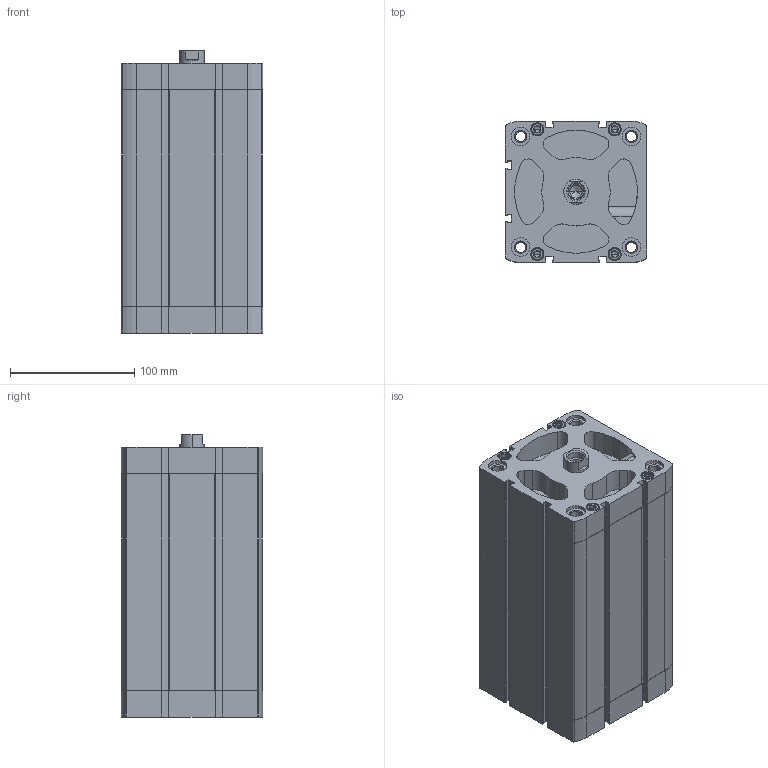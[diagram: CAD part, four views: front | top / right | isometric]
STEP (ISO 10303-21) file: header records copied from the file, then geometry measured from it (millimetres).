
FILE_DESCRIPTION (( 'STEP AP203' ), '1' );
FILE_NAME ('CCN100-150F.STEP', '2020-06-05T18:15:06', ( '' ), ( '' ), 'SwSTEP 2.0', 'SolidWorks 2019', '' );
FILE_SCHEMA (( 'CONFIG_CONTROL_DESIGN' ));
Length unit declared in the file: millimetre
Products named in the file (1): CCN100-150F
Bounding box: 113.5 x 113.5 x 226.8 mm (x, y, z)
Volume: 1392667 mm3; surface area: 291042.3 mm2
Topology: 2 solids, 2 shells, 628 faces, 1631 edges, 1043 vertices
Faces by surface type: plane 284, cylinder 270, cone 74
Entity records: 20342 total; most frequent: CARTESIAN_POINT 4507, DIRECTION 3451, ORIENTED_EDGE 3226, EDGE_CURVE 1613, AXIS2_PLACEMENT_3D 1281, VERTEX_POINT 1043, VECTOR 889, LINE 889
